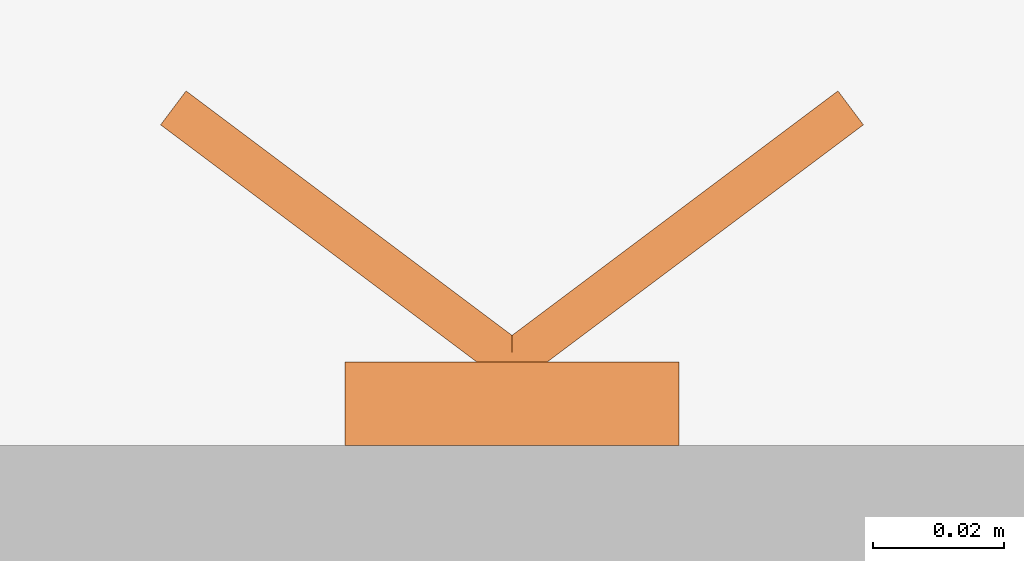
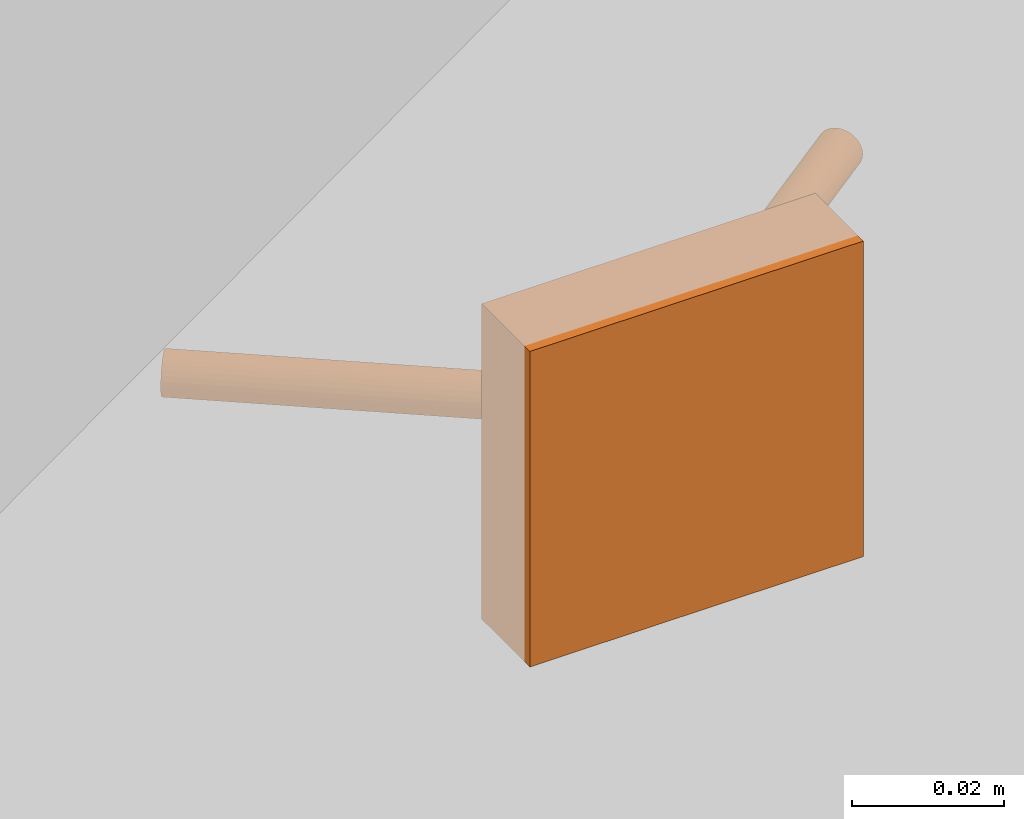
# One storey, part 135 of 142: 1 proxy.
"""IFC2X3 building model written with IfcOpenShell, lengths in feet."""

from ifc_helpers import new_model, entity, si_unit, converted_unit, derived_unit, direction, frame, frame_2d, origin, origin_2d_with_axis, place, context, subcontext, project, spatial, rectangle, circle, extrude, source, transform, mapped, type_object, type_shapes, element, save


model = new_model("IFC2X3")

# Units and contexts
model_context = context("Model", 3, precision=0.0001, world=origin(), true_north=direction((6.12303176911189e-17, 1.0)))
body_context = subcontext(model_context, "Body", "Model", "MODEL_VIEW")
ifc_project = project(units=[converted_unit("LENGTHUNIT", "FOOT", entity("IfcRatioMeasure", 0.3048), si_unit("LENGTHUNIT", "METRE"), dimensions=[1, 0, 0, 0, 0, 0, 0]), converted_unit("AREAUNIT", "SQUARE FOOT", entity("IfcRatioMeasure", 0.09290304), si_unit("AREAUNIT", "SQUARE_METRE"), dimensions=[2, 0, 0, 0, 0, 0, 0]), converted_unit("VOLUMEUNIT", "CUBIC FOOT", entity("IfcRatioMeasure", 0.028316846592), si_unit("VOLUMEUNIT", "CUBIC_METRE"), dimensions=[3, 0, 0, 0, 0, 0, 0]), converted_unit("PLANEANGLEUNIT", "DEGREE", entity("IfcRatioMeasure", 0.0174532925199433), si_unit("PLANEANGLEUNIT", "RADIAN"), dimensions=[0, 0, 0, 0, 0, 0, 0]), si_unit("MASSUNIT", "GRAM", prefix="KILO"), derived_unit("MASSDENSITYUNIT", [(si_unit("MASSUNIT", "GRAM", prefix="KILO"), 1), (si_unit("LENGTHUNIT", "METRE"), -3)]), si_unit("TIMEUNIT", "SECOND"), si_unit("FREQUENCYUNIT", "HERTZ"), si_unit("THERMODYNAMICTEMPERATUREUNIT", "DEGREE_CELSIUS"), derived_unit("THERMALTRANSMITTANCEUNIT", [(si_unit("MASSUNIT", "GRAM", prefix="KILO"), 1), (si_unit("THERMODYNAMICTEMPERATUREUNIT", "KELVIN"), -1), (si_unit("TIMEUNIT", "SECOND"), -3)]), derived_unit("VOLUMETRICFLOWRATEUNIT", [(si_unit("LENGTHUNIT", "METRE"), 3), (si_unit("TIMEUNIT", "SECOND"), -1)]), si_unit("ELECTRICCURRENTUNIT", "AMPERE"), si_unit("ELECTRICVOLTAGEUNIT", "VOLT"), si_unit("POWERUNIT", "WATT"), si_unit("FORCEUNIT", "NEWTON"), si_unit("ILLUMINANCEUNIT", "LUX"), si_unit("LUMINOUSFLUXUNIT", "LUMEN"), si_unit("LUMINOUSINTENSITYUNIT", "CANDELA"), derived_unit("USERDEFINED", [(si_unit("MASSUNIT", "GRAM", prefix="KILO"), -1), (si_unit("LENGTHUNIT", "METRE"), -2), (si_unit("TIMEUNIT", "SECOND"), 3), (si_unit("LUMINOUSFLUXUNIT", "LUMEN"), 1)]), derived_unit("LINEARVELOCITYUNIT", [(si_unit("LENGTHUNIT", "METRE"), 1), (si_unit("TIMEUNIT", "SECOND"), -1)]), si_unit("PRESSUREUNIT", "PASCAL"), derived_unit("USERDEFINED", [(si_unit("LENGTHUNIT", "METRE"), -2), (si_unit("MASSUNIT", "GRAM", prefix="KILO"), 1), (si_unit("TIMEUNIT", "SECOND"), -2)])], contexts=[model_context])

# Site, building, storey, space
site_placement = place(None, origin())
site = spatial("IfcSite", under=ifc_project, at=site_placement, Name="Default", CompositionType="ELEMENT")
building_placement = place(site_placement, origin())
building = spatial("IfcBuilding", under=site, at=building_placement, Name="OUTPATIENT / PACT CLINIC (Ch. 265)", CompositionType="ELEMENT")
storey_placement = place(building_placement, origin())
storey = spatial("IfcBuildingStorey", under=building, at=storey_placement, Name="LEVEL 1", CompositionType="ELEMENT", Elevation=0.0)
space_placement = place(storey_placement, origin())
space = spatial("IfcSpace", under=storey, at=space_placement, Name="EXPA1", CompositionType="ELEMENT", InteriorOrExteriorSpace="INTERNAL")

# Proxy
building_element_proxy_type = type_object("IfcBuildingElementProxyType", Name="A5145 - Hook, Garment, Double", PredefinedType="NOTDEFINED")
shared_shape = source(origin(), body_context, "Body", "SweptSolid", [
    extrude(circle(Radius=0.0105952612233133, at=frame_2d((-1.64551454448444e-31, -4.16333634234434e-17), x_axis=(1.0, 0.0))), frame((-0.169086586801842, -0.168481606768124, 0.0833333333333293), z_axis=(0.799999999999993, 0.60000000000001, 0.0), x_axis=(0.60000000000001, -0.799999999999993, 0.0)), (0.0, 0.0, 1.0), 0.211358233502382),
    extrude(circle(Radius=0.0105952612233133, at=frame_2d((5.2041704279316e-19, 2.77555756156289e-17), x_axis=(1.0, 0.0))), frame((0.0, -0.0416666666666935, 0.083333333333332), z_axis=(0.799999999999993, -0.60000000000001, 0.0), x_axis=(-0.60000000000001, -0.799999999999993, 0.0)), (0.0, 0.0, 1.0), 0.211358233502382),
    extrude(rectangle(XDim=0.0416666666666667, YDim=0.166666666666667, at=origin_2d_with_axis()), frame((0.0, -0.0208333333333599, 0.0), z_axis=(0.0, 0.0, 1.0), x_axis=(0.0, 1.0, 0.0)), (0.0, 0.0, 1.0), 0.166666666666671),
])
type_shapes(building_element_proxy_type, [shared_shape])
proxy_placement = place(space_placement, frame((445.890393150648, -893.024555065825, 4.0), z_axis=(0.0, 0.0, 1.0), x_axis=(-1.0, 0.0, 0.0)))
element("IfcBuildingElementProxy", 1, at=proxy_placement, inside=space, type_object=building_element_proxy_type, Name="A5145 - Hook, Garment, Double:A5145 - Hook, Garment, Double", ObjectType="A5145 - Hook, Garment, Double", context=body_context, shape_type="MappedRepresentation", body=[
    mapped(shared_shape, transform((0.0, 0.0, 0.0), scale=1.0)),
])

save(model, "model.ifc")
